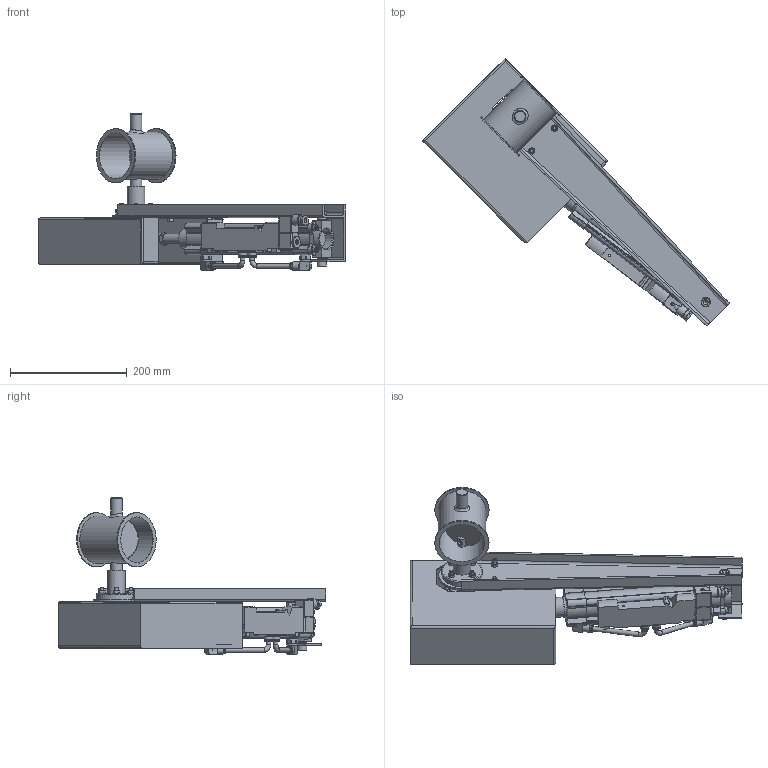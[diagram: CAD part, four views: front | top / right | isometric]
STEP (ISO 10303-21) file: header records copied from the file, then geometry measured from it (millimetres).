
FILE_DESCRIPTION((''),'2;1');
FILE_NAME('U:\Wolfgang\Marcel-3D\fertig\Kapitel 8\0821211.stp','2011-05-03T15:13:18',('TK1'),(''),'Autodesk Inventor 2010','Autodesk Inventor 2010','');
FILE_SCHEMA(('AUTOMOTIVE_DESIGN { 1 0 10303 214 1 1 1 1 }'));
Length unit declared in the file: millimetre
Products named in the file (38): 0821211; BuchseD15 70-50; Bolzen D15; Scheibe80; F1 Zylindereinheit; 174412_ZNCF_40_6_0; 174412_ZNCF_40_6_01; 174412_ZNCF_40_6_02; 174412_ZNCF_40_6_03; 174412_ZNCF_40_6_04; 174412_ZNCF_40_6_05; 532743_DNCB_40_160_PPV_A_6_0; 532743_DNCB_40_160_PPV_A_6_01; 532743_DNCB_40_160_PPV_A_6_02; 537600_VUVB_S_B42_ZD_Q8_3AC1_6_0; 537600_VUVB_S_B42_ZD_Q8_3AC1_6_01; 537600_VUVB_S_B42_ZD_Q8_3AC1_6_02; 537600_VUVB_S_B42_ZD_Q8_3AC1_6_03; 4527_MSFG_24_42_50_60_6_0; 4527_MSFG_24_42_50_60_6_01; 4527_MSFG_24_42_50_60_6_02; 153414_QSRL_1_4_8_6_0; schlauch; Strebe d15; 0021088 d15; Bolzen; Schutzkasten; Kasten-a; Kasten-b; 13570_CRSG_M12x125_6_0; ISO 4018 M6 x 20; ISO 4032 M6; ISO 4018 M8 x 30; ISO 4027 M6 x 10; DIN 6912 M6 x 16; DIN 555 - ersetzt durch DIN EN 24034 M6; DIN EN ISO 4018 M6x25; 0811075-1
Assembly tree (50 placements, depth 4):
  0821211
    BuchseD15 70-50
    Bolzen D15  x2
    Scheibe80
    F1 Zylindereinheit
      174412_ZNCF_40_6_0
        174412_ZNCF_40_6_01
        174412_ZNCF_40_6_02
        174412_ZNCF_40_6_03
        174412_ZNCF_40_6_04
        174412_ZNCF_40_6_05
      532743_DNCB_40_160_PPV_A_6_0
        532743_DNCB_40_160_PPV_A_6_01
        532743_DNCB_40_160_PPV_A_6_02
      537600_VUVB_S_B42_ZD_Q8_3AC1_6_0
        537600_VUVB_S_B42_ZD_Q8_3AC1_6_01
        537600_VUVB_S_B42_ZD_Q8_3AC1_6_02
        537600_VUVB_S_B42_ZD_Q8_3AC1_6_03
      4527_MSFG_24_42_50_60_6_0
        4527_MSFG_24_42_50_60_6_01
        4527_MSFG_24_42_50_60_6_02
      153414_QSRL_1_4_8_6_0  x2
      schlauch  x2
      Strebe d15
      0021088 d15
      Bolzen
      Schutzkasten
        Kasten-a
        Kasten-b
      13570_CRSG_M12x125_6_0
      ISO 4018 M6 x 20  x2
      ISO 4032 M6  x2
      ISO 4018 M8 x 30
      ISO 4027 M6 x 10  x2
    DIN 6912 M6 x 16  x2
    DIN 555 - ersetzt durch DIN EN 24034 M6  x4
    DIN EN ISO 4018 M6x25  x4
    0811075-1
Bounding box: 526.09 x 458.91 x 268.27 mm (x, y, z)
Volume: 1361384 mm3; surface area: 707679.2 mm2
Topology: 44 solids, 44 shells, 2618 faces, 6948 edges, 4514 vertices
Faces by surface type: plane 1946, cylinder 399, cone 223, bspline 41, torus 7, sphere 2
Full cylindrical faces by diameter (mm): 1 x3, 2.459 x1, 3 x4, 3.5 x1, 4 x1, 4.5 x1, 4.917 x8, 5 x2, 5.471 x2, 5.5 x1, 6 x37, 6.8 x4, 7.188 x1, 8 x10, 8.05 x1, 9 x2, 9.6 x2, 9.653 x1, 10 x8, 10.15 x2, 11.2 x2, 11.445 x2, 12 x6, 12.5 x1, 13.05 x2, 13.157 x2, 14 x8, 14.4 x4, 14.5 x2, 14.7 x6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
Entity records: 76230 total; most frequent: CARTESIAN_POINT 14856, ORIENTED_EDGE 12254, DIRECTION 11805, EDGE_CURVE 6127, VECTOR 4909, LINE 4909, VERTEX_POINT 4152, AXIS2_PLACEMENT_3D 3448
